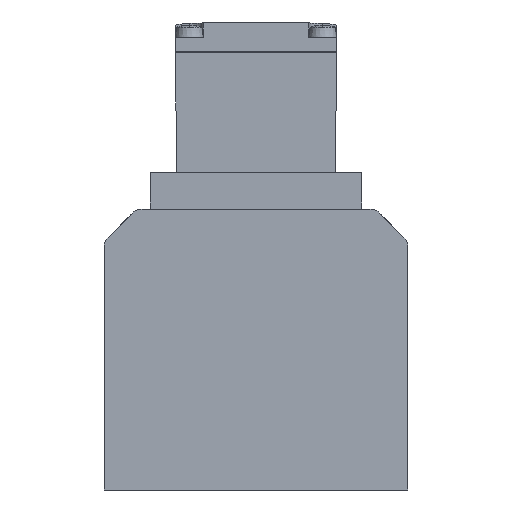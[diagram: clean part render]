
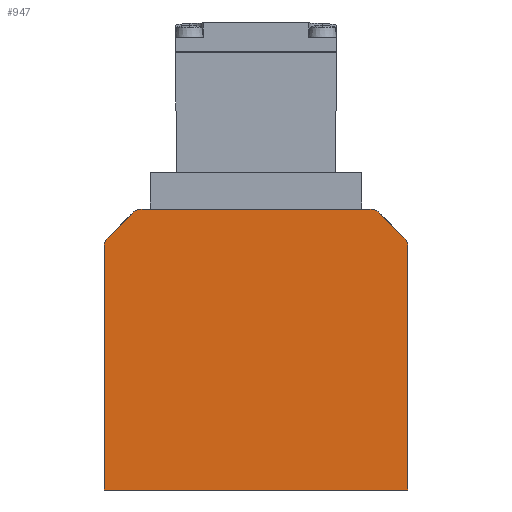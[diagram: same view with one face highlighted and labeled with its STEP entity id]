
A CAD part, front view. The second image highlights one B-rep face of the part: STEP entity #947.
In plain terms, the highlighted planar face has unit normal (0, -1, 0).
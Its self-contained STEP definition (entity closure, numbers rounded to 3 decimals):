
#947 = ADVANCED_FACE( '', ( #2344 ), #2345, .F. );
#2344 = FACE_OUTER_BOUND( '', #4266, .T. );
#2345 = PLANE( '', #4267 );
#4266 = EDGE_LOOP( '', ( #7003, #7004, #7005, #7006, #7007, #7008, #7009, #7010, #7011, #7012 ) );
#4267 = AXIS2_PLACEMENT_3D( '', #7013, #7014, #7015 );
#7003 = ORIENTED_EDGE( '', *, *, #12024, .F. );
#7004 = ORIENTED_EDGE( '', *, *, #12025, .F. );
#7005 = ORIENTED_EDGE( '', *, *, #12026, .F. );
#7006 = ORIENTED_EDGE( '', *, *, #11284, .F. );
#7007 = ORIENTED_EDGE( '', *, *, #12027, .F. );
#7008 = ORIENTED_EDGE( '', *, *, #11488, .F. );
#7009 = ORIENTED_EDGE( '', *, *, #12028, .F. );
#7010 = ORIENTED_EDGE( '', *, *, #12029, .F. );
#7011 = ORIENTED_EDGE( '', *, *, #12030, .F. );
#7012 = ORIENTED_EDGE( '', *, *, #11851, .F. );
#7013 = CARTESIAN_POINT( '', ( -30., -77., 22.257 ) );
#7014 = DIRECTION( '', ( 0., 1., 0. ) );
#7015 = DIRECTION( '', ( 0., 0., 1. ) );
#11284 = EDGE_CURVE( '', #13460, #13462, #13463, .T. );
#11488 = EDGE_CURVE( '', #13824, #13820, #13826, .T. );
#11851 = EDGE_CURVE( '', #14451, #14453, #14454, .T. );
#12024 = EDGE_CURVE( '', #14747, #14451, #14748, .T. );
#12025 = EDGE_CURVE( '', #14749, #14747, #14750, .T. );
#12026 = EDGE_CURVE( '', #13462, #14749, #14751, .T. );
#12027 = EDGE_CURVE( '', #13820, #13460, #14752, .T. );
#12028 = EDGE_CURVE( '', #14753, #13824, #14754, .T. );
#12029 = EDGE_CURVE( '', #14755, #14753, #14756, .T. );
#12030 = EDGE_CURVE( '', #14453, #14755, #14757, .T. );
#13460 = VERTEX_POINT( '', #16672 );
#13462 = VERTEX_POINT( '', #16675 );
#13463 = CIRCLE( '', #16676, 3. );
#13820 = VERTEX_POINT( '', #17222 );
#13824 = VERTEX_POINT( '', #17242 );
#13826 = CIRCLE( '', #17245, 3. );
#14451 = VERTEX_POINT( '', #18121 );
#14453 = VERTEX_POINT( '', #18124 );
#14454 = CIRCLE( '', #18125, 3. );
#14747 = VERTEX_POINT( '', #18533 );
#14748 = LINE( '', #18534, #18535 );
#14749 = VERTEX_POINT( '', #18536 );
#14750 = LINE( '', #18537, #18538 );
#14751 = LINE( '', #18539, #18540 );
#14752 = LINE( '', #18541, #18542 );
#14753 = VERTEX_POINT( '', #18543 );
#14754 = LINE( '', #18544, #18545 );
#14755 = VERTEX_POINT( '', #18546 );
#14756 = CIRCLE( '', #18547, 3. );
#14757 = LINE( '', #18548, #18549 );
#16672 = CARTESIAN_POINT( '', ( 32.121, -77., 24.379 ) );
#16675 = CARTESIAN_POINT( '', ( 33., -77., 22.257 ) );
#16676 = AXIS2_PLACEMENT_3D( '', #21256, #21257, #21258 );
#17222 = CARTESIAN_POINT( '', ( 26.879, -77., 29.621 ) );
#17242 = CARTESIAN_POINT( '', ( 24.757, -77., 30.5 ) );
#17245 = AXIS2_PLACEMENT_3D( '', #21501, #21502, #21503 );
#18121 = CARTESIAN_POINT( '', ( -33., -77., 22.257 ) );
#18124 = CARTESIAN_POINT( '', ( -32.121, -77., 24.379 ) );
#18125 = AXIS2_PLACEMENT_3D( '', #21926, #21927, #21928 );
#18533 = CARTESIAN_POINT( '', ( -33., -77., -30.5 ) );
#18534 = CARTESIAN_POINT( '', ( -33., -77., -30.5 ) );
#18535 = VECTOR( '', #22125, 1000. );
#18536 = CARTESIAN_POINT( '', ( 33., -77., -30.5 ) );
#18537 = CARTESIAN_POINT( '', ( 33., -77., -30.5 ) );
#18538 = VECTOR( '', #22126, 1000. );
#18539 = CARTESIAN_POINT( '', ( 33., -77., 22.257 ) );
#18540 = VECTOR( '', #22127, 1000. );
#18541 = CARTESIAN_POINT( '', ( 26.879, -77., 29.621 ) );
#18542 = VECTOR( '', #22128, 1000. );
#18543 = CARTESIAN_POINT( '', ( -24.757, -77., 30.5 ) );
#18544 = CARTESIAN_POINT( '', ( -24.757, -77., 30.5 ) );
#18545 = VECTOR( '', #22129, 1000. );
#18546 = CARTESIAN_POINT( '', ( -26.879, -77., 29.621 ) );
#18547 = AXIS2_PLACEMENT_3D( '', #22130, #22131, #22132 );
#18548 = CARTESIAN_POINT( '', ( -32.121, -77., 24.379 ) );
#18549 = VECTOR( '', #22133, 1000. );
#21256 = CARTESIAN_POINT( '', ( 30., -77., 22.257 ) );
#21257 = DIRECTION( '', ( 0., 1., 0. ) );
#21258 = DIRECTION( '', ( 1., 0., 0. ) );
#21501 = CARTESIAN_POINT( '', ( 24.757, -77., 27.5 ) );
#21502 = DIRECTION( '', ( 0., 1., 0. ) );
#21503 = DIRECTION( '', ( 1., 0., 0. ) );
#21926 = CARTESIAN_POINT( '', ( -30., -77., 22.257 ) );
#21927 = DIRECTION( '', ( 0., 1., 0. ) );
#21928 = DIRECTION( '', ( 1., 0., 0. ) );
#22125 = DIRECTION( '', ( 0., 0., 1. ) );
#22126 = DIRECTION( '', ( -1., 0., 0. ) );
#22127 = DIRECTION( '', ( 0., 0., -1. ) );
#22128 = DIRECTION( '', ( 0.707, 0., -0.707 ) );
#22129 = DIRECTION( '', ( 1., 0., 0. ) );
#22130 = CARTESIAN_POINT( '', ( -24.757, -77., 27.5 ) );
#22131 = DIRECTION( '', ( 0., 1., 0. ) );
#22132 = DIRECTION( '', ( 1., 0., 0. ) );
#22133 = DIRECTION( '', ( 0.707, 0., 0.707 ) );
